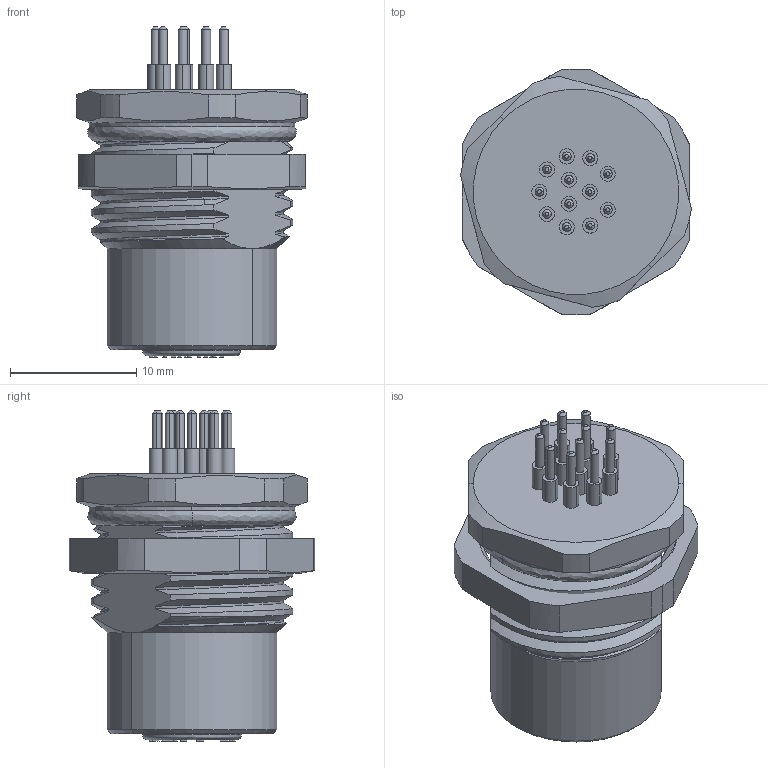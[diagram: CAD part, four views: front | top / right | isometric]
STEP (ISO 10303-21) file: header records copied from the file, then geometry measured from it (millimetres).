
FILE_DESCRIPTION (( 'STEP AP203' ), '1' );
FILE_NAME ('64SC61P.STEP', '2023-10-25T06:01:49', ( 'ADMIN' ), ( '' ), 'SwSTEP 2.0', 'SolidWorks 2016', '' );
FILE_SCHEMA (( 'CONFIG_CONTROL_DESIGN' ));
Length unit declared in the file: millimetre
Products named in the file (1): 64SC61P
Bounding box: 18.31 x 19.5 x 26.2 mm (x, y, z)
Volume: 3337.1 mm3; surface area: 3612.3 mm2
Topology: 2 solids, 15 shells, 609 faces, 1518 edges, 1005 vertices
Faces by surface type: plane 207, cylinder 176, bspline 159, cone 67
Entity records: 41049 total; most frequent: CARTESIAN_POINT 27582, ORIENTED_EDGE 3024, DIRECTION 2290, EDGE_CURVE 1512, VERTEX_POINT 1005, AXIS2_PLACEMENT_3D 840, EDGE_LOOP 685, VECTOR 610
